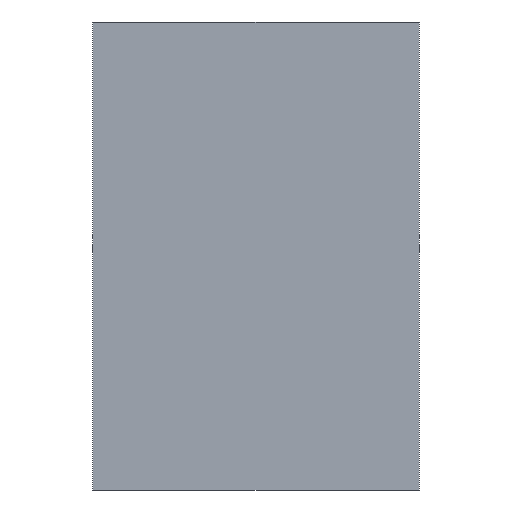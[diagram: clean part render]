
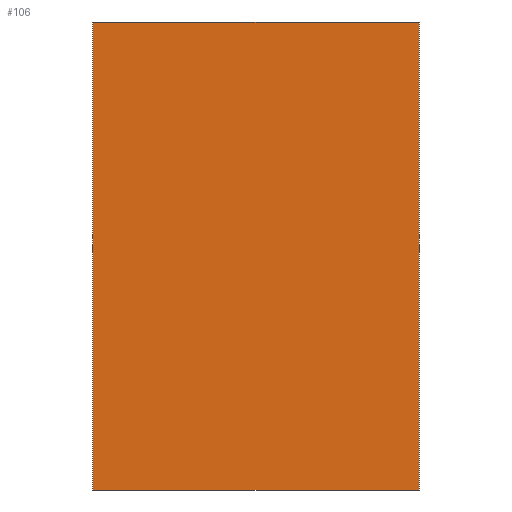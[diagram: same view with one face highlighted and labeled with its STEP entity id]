
A CAD part, front view. The second image highlights one B-rep face of the part: STEP entity #106.
In plain terms, the highlighted planar face has unit normal (0, -1, 0).
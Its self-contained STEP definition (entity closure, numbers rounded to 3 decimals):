
#20=FACE_OUTER_BOUND('',#26,.T.);
#26=EDGE_LOOP('',(#91,#92,#93,#94));
#27=LINE('',#145,#39);
#31=LINE('',#153,#43);
#34=LINE('',#159,#46);
#37=LINE('',#164,#49);
#39=VECTOR('',#119,10.);
#43=VECTOR('',#125,10.);
#46=VECTOR('',#130,10.);
#49=VECTOR('',#135,10.);
#51=VERTEX_POINT('',#143);
#52=VERTEX_POINT('',#144);
#55=VERTEX_POINT('',#152);
#57=VERTEX_POINT('',#158);
#59=EDGE_CURVE('',#51,#52,#27,.T.);
#63=EDGE_CURVE('',#52,#55,#31,.T.);
#66=EDGE_CURVE('',#55,#57,#34,.T.);
#69=EDGE_CURVE('',#57,#51,#37,.T.);
#91=ORIENTED_EDGE('',*,*,#69,.T.);
#92=ORIENTED_EDGE('',*,*,#59,.T.);
#93=ORIENTED_EDGE('',*,*,#63,.T.);
#94=ORIENTED_EDGE('',*,*,#66,.T.);
#100=PLANE('',#114);
#106=ADVANCED_FACE('',(#20),#100,.F.);
#114=AXIS2_PLACEMENT_3D('',#167,#139,#140);
#119=DIRECTION('',(0.,0.,1.));
#125=DIRECTION('',(-1.,0.,0.));
#130=DIRECTION('',(0.,0.,-1.));
#135=DIRECTION('',(1.,0.,0.));
#139=DIRECTION('center_axis',(0.,1.,0.));
#140=DIRECTION('ref_axis',(1.,0.,0.));
#143=CARTESIAN_POINT('',(70.649,-1.,-232.796));
#144=CARTESIAN_POINT('',(70.649,-1.,-24.796));
#145=CARTESIAN_POINT('',(70.649,-1.,-232.796));
#152=CARTESIAN_POINT('',(-74.351,-1.,-24.796));
#153=CARTESIAN_POINT('',(70.649,-1.,-24.796));
#158=CARTESIAN_POINT('',(-74.351,-1.,-232.796));
#159=CARTESIAN_POINT('',(-74.351,-1.,-24.796));
#164=CARTESIAN_POINT('',(-74.351,-1.,-232.796));
#167=CARTESIAN_POINT('Origin',(-1.851,-1.,-128.796));
